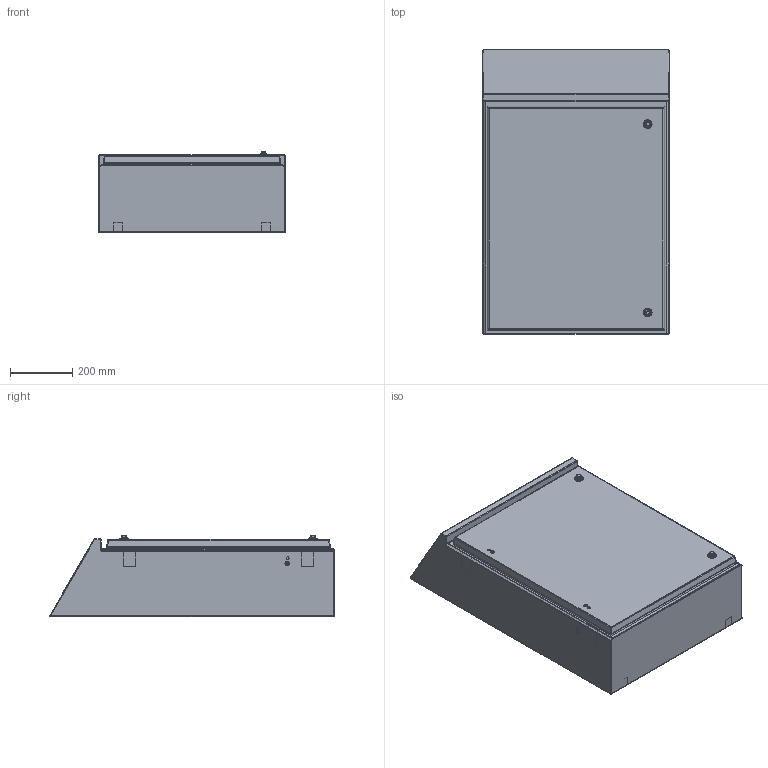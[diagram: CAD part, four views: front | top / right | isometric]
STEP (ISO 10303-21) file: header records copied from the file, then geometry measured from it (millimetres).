
FILE_DESCRIPTION (( 'STEP AP203' ), '1' );
FILE_NAME ('SITO-QSH67.STEP', '2021-05-06T07:19:44', ( '' ), ( '' ), 'SwSTEP 2.0', 'SolidWorks 2020', '' );
FILE_SCHEMA (( 'CONFIG_CONTROL_DESIGN' ));
Length unit declared in the file: millimetre
Products named in the file (18): SVPIQSH67; SG460-32-HD_Posizione 4; DMFD08Z; PIQSH67A; SG460-32-HD_Posizione 3; CERNIERA; SITO-PORTA QSH67; PRM615TL316; SITO-QSH67; 1000-S1491; ADMT_ADMT; GHIERA SG CASSETTE; RP0612I; Scarpetta H.32 SG460-SD_Configurazione 2; DM06I; SITO-FASCIAME QSH67_QSH45; CEPOM(CORPO); SITO-ASSIEME PORTA QSH67
Assembly tree (31 placements, depth 4):
  SITO-QSH67
    SITO-FASCIAME QSH67_QSH45
    PIQSH67A
      SVPIQSH67
    SITO-ASSIEME PORTA QSH67
      SITO-PORTA QSH67
      SG460-32-HD_Posizione 4
        1000-S1491
        GHIERA SG CASSETTE
        Scarpetta H.32 SG460-SD_Configurazione 2
        CEPOM(CORPO)
      SG460-32-HD_Posizione 3
        1000-S1491
        GHIERA SG CASSETTE
        Scarpetta H.32 SG460-SD_Configurazione 2
        CEPOM(CORPO)
      PRM615TL316  x2
      ADMT_ADMT  x2
      RP0612I  x2
      DM06I  x2
    DMFD08Z  x4
    ADMT_ADMT  x2
    CERNIERA  x2
Bounding box: 600 x 915.94 x 261.59 mm (x, y, z)
Volume: 4271477.2 mm3; surface area: 4754666.1 mm2
Topology: 33 solids, 33 shells, 1484 faces, 3628 edges, 2252 vertices
Faces by surface type: plane 766, cylinder 466, cone 124, bspline 86, sphere 28, torus 14
Entity records: 32188 total; most frequent: CARTESIAN_POINT 8135, DIRECTION 4582, ORIENTED_EDGE 4520, EDGE_CURVE 2260, AXIS2_PLACEMENT_3D 1601, VERTEX_POINT 1403, VECTOR 1380, LINE 1380
